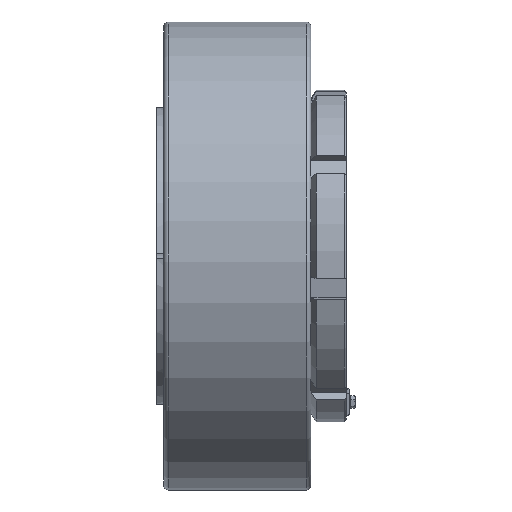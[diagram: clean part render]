
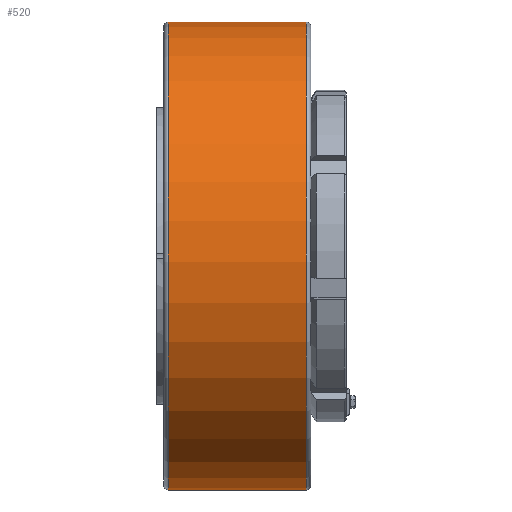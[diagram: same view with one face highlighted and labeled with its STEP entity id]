
A CAD part, front view. The second image highlights one B-rep face of the part: STEP entity #520.
In plain terms, the highlighted cylindrical face has radius 395 mm (diameter 790 mm), a full revolution.
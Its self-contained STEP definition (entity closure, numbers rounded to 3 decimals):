
#520 = ADVANCED_FACE( '', ( #1169, #1170 ), #1171, .T. );
#1169 = FACE_OUTER_BOUND( '', #1942, .T. );
#1170 = FACE_OUTER_BOUND( '', #1943, .T. );
#1171 = CYLINDRICAL_SURFACE( '', #1944, 395. );
#1942 = EDGE_LOOP( '', ( #4076 ) );
#1943 = EDGE_LOOP( '', ( #4077 ) );
#1944 = AXIS2_PLACEMENT_3D( '', #4078, #4079, #4080 );
#4076 = ORIENTED_EDGE( '', *, *, #5532, .T. );
#4077 = ORIENTED_EDGE( '', *, *, #5546, .F. );
#4078 = CARTESIAN_POINT( '', ( 0., 0., 0. ) );
#4079 = DIRECTION( '', ( -1., 0., 0. ) );
#4080 = DIRECTION( '', ( 0., 0., -1. ) );
#5532 = EDGE_CURVE( '', #6788, #6788, #6789, .T. );
#5546 = EDGE_CURVE( '', #6816, #6816, #6817, .T. );
#6788 = VERTEX_POINT( '', #8837 );
#6789 = CIRCLE( '', #8838, 395. );
#6816 = VERTEX_POINT( '', #8865 );
#6817 = CIRCLE( '', #8866, 395. );
#8837 = CARTESIAN_POINT( '', ( -312.5, 0., -395. ) );
#8838 = AXIS2_PLACEMENT_3D( '', #10404, #10405, #10406 );
#8865 = CARTESIAN_POINT( '', ( -79.5, 0., -395. ) );
#8866 = AXIS2_PLACEMENT_3D( '', #10446, #10447, #10448 );
#10404 = CARTESIAN_POINT( '', ( -312.5, 0., 0. ) );
#10405 = DIRECTION( '', ( 1., 0., 0. ) );
#10406 = DIRECTION( '', ( 0., 0., -1. ) );
#10446 = CARTESIAN_POINT( '', ( -79.5, 0., 0. ) );
#10447 = DIRECTION( '', ( 1., 0., 0. ) );
#10448 = DIRECTION( '', ( 0., 0., -1. ) );
